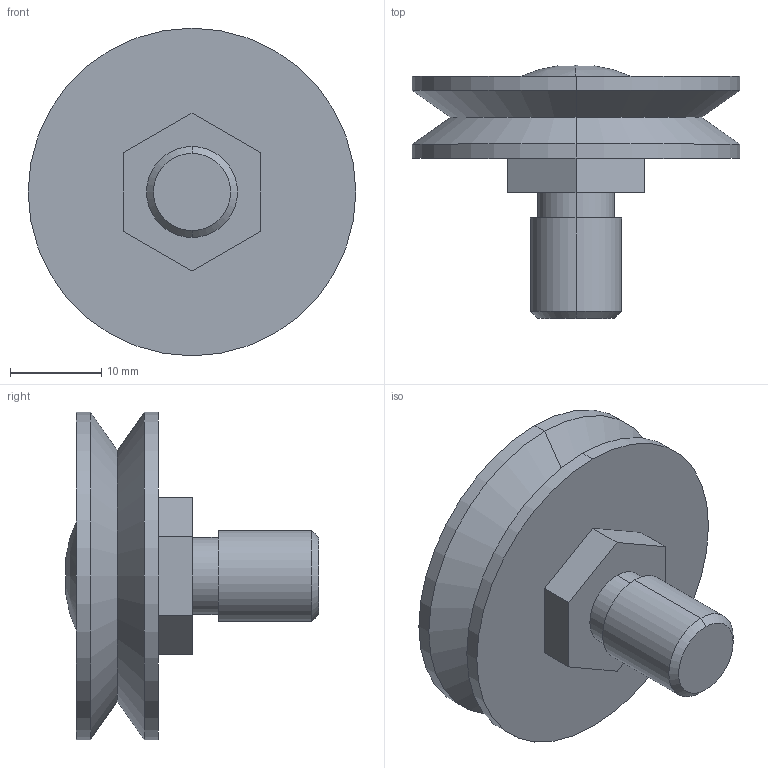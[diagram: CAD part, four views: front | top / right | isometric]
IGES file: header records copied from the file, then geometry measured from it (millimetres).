
Start section: 3D InterOp IGES (v. 2019 1.0.2), Spatial Corp. Copyright (c) 1999-2017.
Global section: file name: GBHJ 360 C.igs; native system: Spatial Corp.; preprocessor: 3D InterOp GENERIC/IGES 3.0; author: Noname; organization: Noname; date: 20220628.170608; units: millimetre
Bounding box: 36 x 27.8 x 36 mm (x, y, z)
Surface area: 4066.5 mm2 (no closed solid volume)
Topology: 0 solids, 0 shells, 27 faces, 114 edges, 112 vertices
Faces by surface type: revolution 14, extrusion 11, bspline 2
